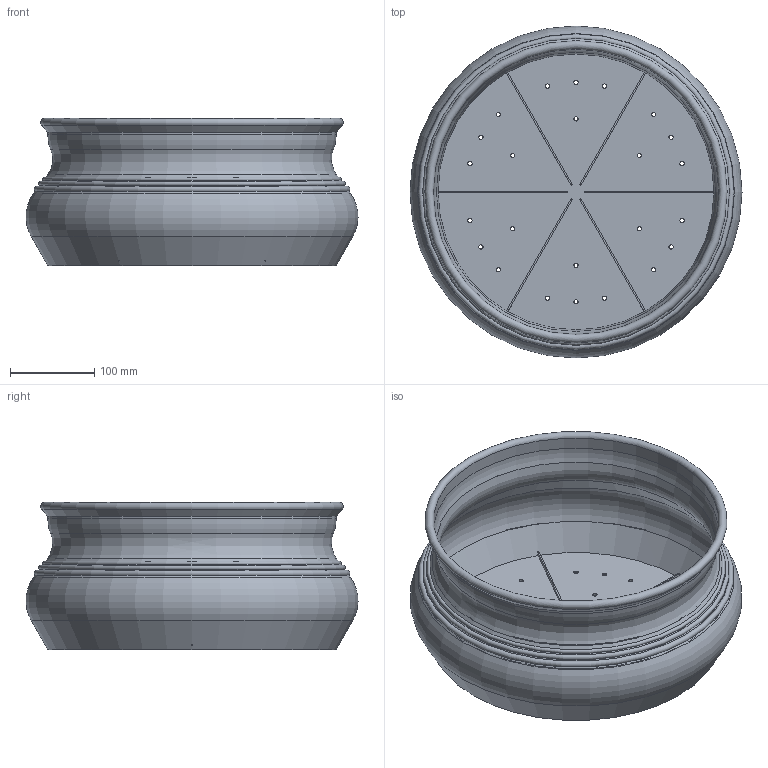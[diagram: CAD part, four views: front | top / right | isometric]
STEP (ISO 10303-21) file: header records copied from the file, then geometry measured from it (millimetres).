
FILE_DESCRIPTION(/* description */ (''),/* implementation_level */ '2;1');
FILE_NAME(/* name */ 'LR2406-S17-H175-D400_step.step',/* time_stamp */ '2024-02-01T11:04:14+01:00',/* author */ (''),/* organization */ (''),/* preprocessor_version */ 'ST-DEVELOPER v20',/* originating_system */ 'Autodesk Translation Framework v12.20.1.177',/* authorisation */ '');
FILE_SCHEMA (('AUTOMOTIVE_DESIGN { 1 0 10303 214 3 1 1 }'));
Length unit declared in the file: millimetre
Products named in the file (1): LR2406-S17-H175-D400
Bounding box: 394.69 x 394.69 x 175 mm (x, y, z)
Volume: 691116.6 mm3; surface area: 638622.2 mm2
Topology: 1 solids, 1 shells, 70 faces, 185 edges, 117 vertices
Faces by surface type: cylinder 32, plane 20, torus 10, cone 8
Full cylindrical faces by diameter (mm): 5 x24, 339.36 x1, 342.72 x1
Entity records: 2336 total; most frequent: DIRECTION 430, CARTESIAN_POINT 373, ORIENTED_EDGE 370, EDGE_CURVE 185, AXIS2_PLACEMENT_3D 174, EDGE_LOOP 118, VERTEX_POINT 117, CIRCLE 103
